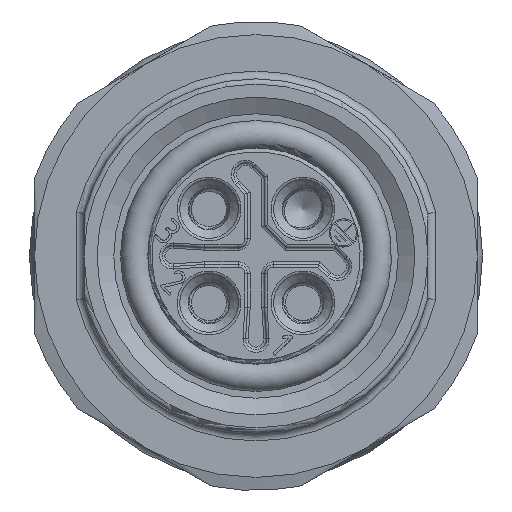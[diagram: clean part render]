
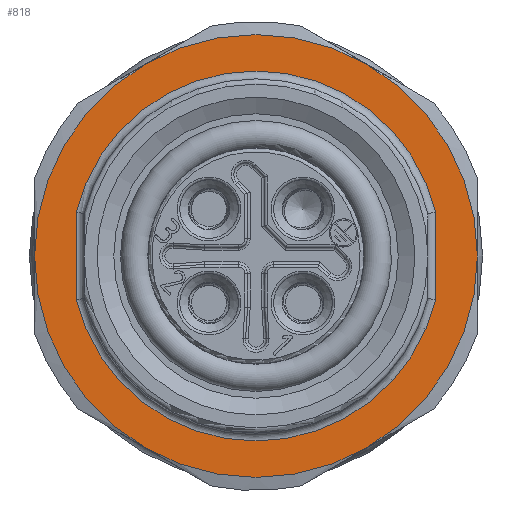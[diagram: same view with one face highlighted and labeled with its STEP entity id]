
A CAD part, left-side view. The second image highlights one B-rep face of the part: STEP entity #818.
In plain terms, the highlighted planar face has unit normal (-1, 0, 0).
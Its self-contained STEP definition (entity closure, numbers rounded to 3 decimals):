
#818=ADVANCED_FACE('',(#2371,#2372),#1229,.T.);
#1229=PLANE('',#6817);
#1434=LINE('',#9655,#1901);
#1435=LINE('',#9659,#1902);
#1901=VECTOR('',#7643,1.);
#1902=VECTOR('',#7646,1.);
#2371=FACE_BOUND('',#2569,.T.);
#2372=FACE_BOUND('',#2570,.T.);
#2569=EDGE_LOOP('',(#3181,#3182,#3183,#3184));
#2570=EDGE_LOOP('',(#3185,#3186,#3187,#3188,#3189,#3190));
#3181=ORIENTED_EDGE('',*,*,#5592,.T.);
#3182=ORIENTED_EDGE('',*,*,#5593,.T.);
#3183=ORIENTED_EDGE('',*,*,#5594,.T.);
#3184=ORIENTED_EDGE('',*,*,#5595,.T.);
#3185=ORIENTED_EDGE('',*,*,#5591,.T.);
#3186=ORIENTED_EDGE('',*,*,#5573,.T.);
#3187=ORIENTED_EDGE('',*,*,#5571,.T.);
#3188=ORIENTED_EDGE('',*,*,#5567,.T.);
#3189=ORIENTED_EDGE('',*,*,#5563,.T.);
#3190=ORIENTED_EDGE('',*,*,#5559,.T.);
#4956=VERTEX_POINT('',#9549);
#4958=VERTEX_POINT('',#9556);
#4960=VERTEX_POINT('',#9564);
#4963=VERTEX_POINT('',#9578);
#4966=VERTEX_POINT('',#9592);
#4969=VERTEX_POINT('',#9607);
#4973=VERTEX_POINT('',#9653);
#4974=VERTEX_POINT('',#9654);
#4975=VERTEX_POINT('',#9656);
#4976=VERTEX_POINT('',#9658);
#5559=EDGE_CURVE('',#4956,#4958,#6467,.T.);
#5563=EDGE_CURVE('',#4960,#4956,#6469,.T.);
#5567=EDGE_CURVE('',#4963,#4960,#6471,.T.);
#5571=EDGE_CURVE('',#4966,#4963,#6473,.T.);
#5573=EDGE_CURVE('',#4969,#4966,#6474,.T.);
#5591=EDGE_CURVE('',#4958,#4969,#6477,.T.);
#5592=EDGE_CURVE('',#4973,#4974,#6478,.T.);
#5593=EDGE_CURVE('',#4974,#4975,#1434,.T.);
#5594=EDGE_CURVE('',#4975,#4976,#6479,.T.);
#5595=EDGE_CURVE('',#4976,#4973,#1435,.T.);
#6467=CIRCLE('',#6786,8.5);
#6469=CIRCLE('',#6789,8.5);
#6471=CIRCLE('',#6792,8.5);
#6473=CIRCLE('',#6795,8.5);
#6474=CIRCLE('',#6797,8.5);
#6477=CIRCLE('',#6813,8.5);
#6478=CIRCLE('',#6815,7.1);
#6479=CIRCLE('',#6816,7.1);
#6786=AXIS2_PLACEMENT_3D('',#9557,#7571,#7572);
#6789=AXIS2_PLACEMENT_3D('',#9571,#7577,#7578);
#6792=AXIS2_PLACEMENT_3D('',#9585,#7583,#7584);
#6795=AXIS2_PLACEMENT_3D('',#9599,#7589,#7590);
#6797=AXIS2_PLACEMENT_3D('',#9606,#7593,#7594);
#6813=AXIS2_PLACEMENT_3D('',#9650,#7637,#7638);
#6815=AXIS2_PLACEMENT_3D('',#9652,#7641,#7642);
#6816=AXIS2_PLACEMENT_3D('',#9657,#7644,#7645);
#6817=AXIS2_PLACEMENT_3D('',#9660,#7647,#7648);
#7571=DIRECTION('',(-1.,0.,0.));
#7572=DIRECTION('',(0.,0.,1.));
#7577=DIRECTION('',(-1.,0.,0.));
#7578=DIRECTION('',(0.,0.,1.));
#7583=DIRECTION('',(-1.,0.,0.));
#7584=DIRECTION('',(0.,0.,1.));
#7589=DIRECTION('',(-1.,0.,0.));
#7590=DIRECTION('',(0.,0.,1.));
#7593=DIRECTION('',(-1.,0.,0.));
#7594=DIRECTION('',(0.,0.,1.));
#7637=DIRECTION('',(-1.,0.,0.));
#7638=DIRECTION('',(0.,0.,1.));
#7641=DIRECTION('',(1.,0.,0.));
#7642=DIRECTION('',(0.,0.,1.));
#7643=DIRECTION('',(0.,0.,1.));
#7644=DIRECTION('',(1.,0.,0.));
#7645=DIRECTION('',(0.,0.,1.));
#7646=DIRECTION('',(0.,0.,-1.));
#7647=DIRECTION('',(-1.,0.,0.));
#7648=DIRECTION('',(0.,0.,1.));
#9549=CARTESIAN_POINT('',(8.,-4.25,7.361));
#9556=CARTESIAN_POINT('',(8.,4.25,7.361));
#9557=CARTESIAN_POINT('',(8.,0.,0.));
#9564=CARTESIAN_POINT('',(8.,-8.5,0.));
#9571=CARTESIAN_POINT('',(8.,0.,0.));
#9578=CARTESIAN_POINT('',(8.,-4.25,-7.361));
#9585=CARTESIAN_POINT('',(8.,0.,0.));
#9592=CARTESIAN_POINT('',(8.,4.25,-7.361));
#9599=CARTESIAN_POINT('',(8.,0.,0.));
#9606=CARTESIAN_POINT('',(8.,0.,0.));
#9607=CARTESIAN_POINT('',(8.,8.5,0.));
#9650=CARTESIAN_POINT('',(8.,0.,0.));
#9652=CARTESIAN_POINT('',(8.,0.,0.));
#9653=CARTESIAN_POINT('',(8.,-6.9,-1.673));
#9654=CARTESIAN_POINT('',(8.,6.9,-1.673));
#9655=CARTESIAN_POINT('',(8.,6.9,0.));
#9656=CARTESIAN_POINT('',(8.,6.9,1.673));
#9657=CARTESIAN_POINT('',(8.,0.,0.));
#9658=CARTESIAN_POINT('',(8.,-6.9,1.673));
#9659=CARTESIAN_POINT('',(8.,-6.9,0.));
#9660=CARTESIAN_POINT('',(8.,0.,0.));
